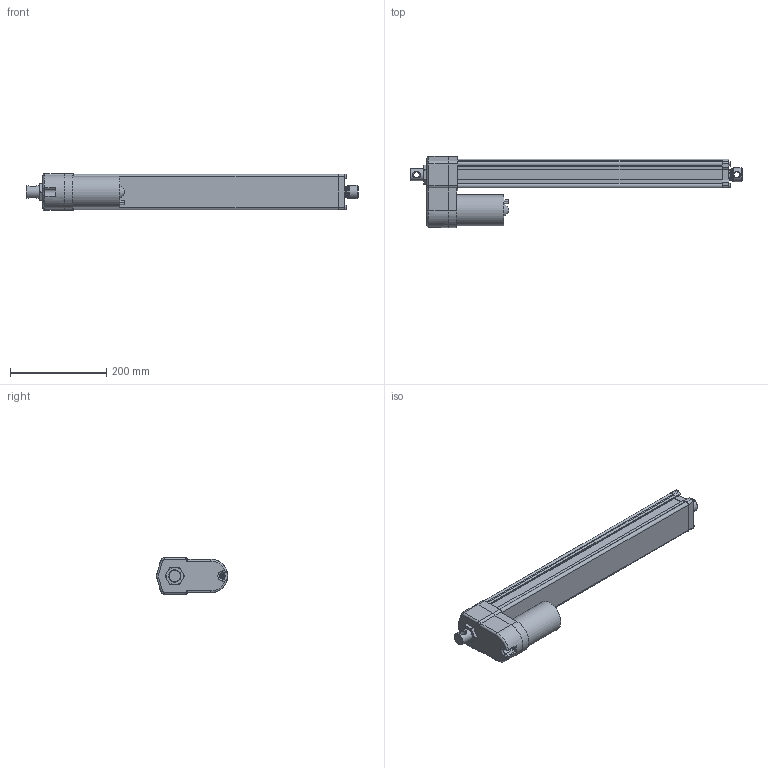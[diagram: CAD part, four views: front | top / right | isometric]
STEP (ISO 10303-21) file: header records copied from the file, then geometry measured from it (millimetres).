
FILE_DESCRIPTION( ( 'STEP AP203' ), '1' );
FILE_NAME( 'p:/temp/worker_284/temp/exporttempdir_2912_735_HAI8F/format_0/DA12-05A65M45M0N-AMM.stp', '2020-04-12T13:19:10', ( 'License CC BY-ND 4.0' ), ( 'CADENAS' ), ' ', 'PARTsolutions', ' ' );
FILE_SCHEMA( ( 'CONFIG_CONTROL_DESIGN' ) );
Length unit declared in the file: millimetre
Products named in the file (8): DA12-05A65M45M0N-AMM; _ELECTRAK-LA14-DA12-05A65MM0N-45M-EU-REAR; _Electrak-10-EU-RA-D602700; _D602768eu; _ELECTRAK-LA14-DA12--MOTOR; _DA12-05A65M45M0NAMMtube; _ELECTRAK-LA14-DA12--45-PLATE; _ELECTRAK-LA14-DA12--4505A65MNM-ROD
Assembly tree (7 placements, depth 2):
  DA12-05A65M45M0N-AMM
    _ELECTRAK-LA14-DA12-05A65MM0N-45M-EU-REAR
    _Electrak-10-EU-RA-D602700
    _D602768eu
    _ELECTRAK-LA14-DA12--MOTOR
    _DA12-05A65M45M0NAMMtube
    _ELECTRAK-LA14-DA12--45-PLATE
    _ELECTRAK-LA14-DA12--4505A65MNM-ROD
Bounding box: 691.05 x 148 x 76.2 mm (x, y, z)
Volume: 1932111.8 mm3; surface area: 533026.1 mm2
Topology: 7 solids, 8 shells, 378 faces, 942 edges, 610 vertices
Faces by surface type: plane 183, cylinder 131, cone 46, torus 14, bspline 4
Full cylindrical faces by diameter (mm): 4 x2, 4.126 x1, 4.8 x6, 5 x5, 5.6 x4, 7.878 x4, 9.398 x1, 12.2 x2, 16 x1, 21.8 x1, 25.2 x1, 25.4 x1, 26.24 x1, 28.5 x1, 28.6 x2, 47.625 x1, 65.3 x1
Entity records: 11834 total; most frequent: CARTESIAN_POINT 2729, DIRECTION 1869, ORIENTED_EDGE 1744, EDGE_CURVE 872, AXIS2_PLACEMENT_3D 702, VERTEX_POINT 602, EDGE_LOOP 485, LINE 465
